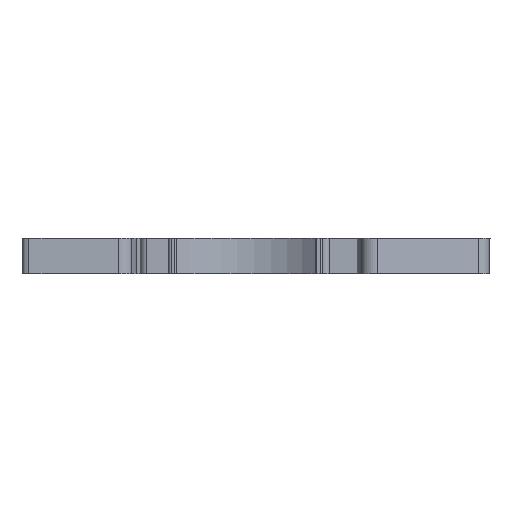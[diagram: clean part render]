
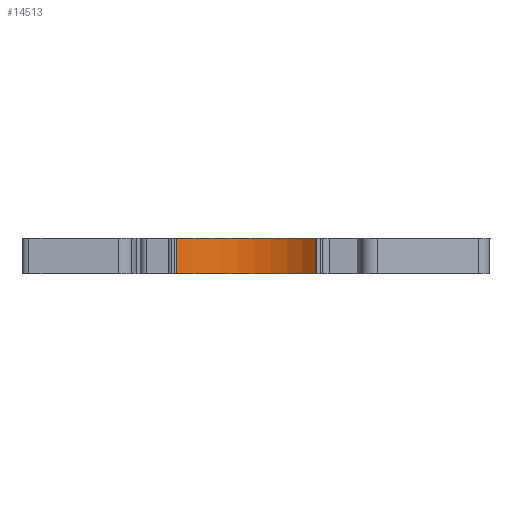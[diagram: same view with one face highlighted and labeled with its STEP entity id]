
A CAD part, front view. The second image highlights one B-rep face of the part: STEP entity #14513.
In plain terms, the highlighted cylindrical face has radius 15 mm (diameter 30 mm), a partial arc.
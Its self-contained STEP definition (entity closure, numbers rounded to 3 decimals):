
#724=CARTESIAN_POINT('',(2.202,-44.9,0.05));
#725=DIRECTION('',(0.,0.,1.));
#726=DIRECTION('',(0.674,0.739,0.));
#727=AXIS2_PLACEMENT_3D('',#724,#725,#726);
#1055=CARTESIAN_POINT('',(2.202,-44.9,-5.15));
#1056=DIRECTION('',(0.,0.,-1.));
#1057=DIRECTION('',(-0.674,0.738,0.));
#1058=AXIS2_PLACEMENT_3D('',#1055,#1056,#1057);
#5262=DIRECTION('',(0.,0.,1.));
#5263=VECTOR('',#5262,5.2);
#5264=CARTESIAN_POINT('',(12.315,-33.822,-5.15));
#5265=LINE('',#5264,#5263);
#5266=DIRECTION('',(0.,0.,1.));
#5267=VECTOR('',#5266,5.2);
#5268=CARTESIAN_POINT('',(-7.913,-33.823,-5.15));
#5269=LINE('',#5268,#5267);
#6198=CARTESIAN_POINT('',(-7.913,-33.823,-5.15));
#6199=VERTEX_POINT('',#6198);
#6200=CARTESIAN_POINT('',(12.315,-33.822,-5.15));
#6201=VERTEX_POINT('',#6200);
#6744=CARTESIAN_POINT('',(12.315,-33.822,0.05));
#6745=VERTEX_POINT('',#6744);
#6746=CARTESIAN_POINT('',(-7.911,-33.822,0.05));
#6747=VERTEX_POINT('',#6746);
#14501=CARTESIAN_POINT('',(2.202,-44.9,-5.254));
#14502=DIRECTION('',(0.,0.,1.));
#14503=DIRECTION('',(-1.,0.,0.));
#14504=AXIS2_PLACEMENT_3D('',#14501,#14502,#14503);
#14505=CYLINDRICAL_SURFACE('',#14504,15.);
#14506=ORIENTED_EDGE('',*,*,#8307,.F.);
#14507=ORIENTED_EDGE('',*,*,#14495,.F.);
#14508=ORIENTED_EDGE('',*,*,#8556,.F.);
#14510=ORIENTED_EDGE('',*,*,#14509,.T.);
#14511=EDGE_LOOP('',(#14506,#14507,#14508,#14510));
#14512=FACE_OUTER_BOUND('',#14511,.F.);
#728=CIRCLE('',#727,15.);
#1059=CIRCLE('',#1058,15.);
#8307=EDGE_CURVE('',#6745,#6747,#728,.T.);
#8556=EDGE_CURVE('',#6199,#6201,#1059,.T.);
#14495=EDGE_CURVE('',#6201,#6745,#5265,.T.);
#14509=EDGE_CURVE('',#6199,#6747,#5269,.T.);
#14513=ADVANCED_FACE('',(#14512),#14505,.F.);
